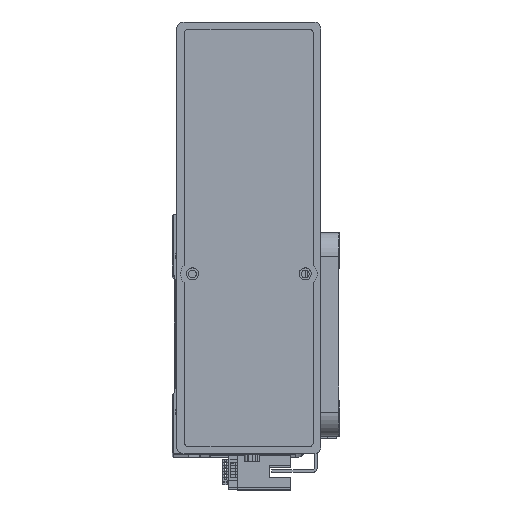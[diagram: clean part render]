
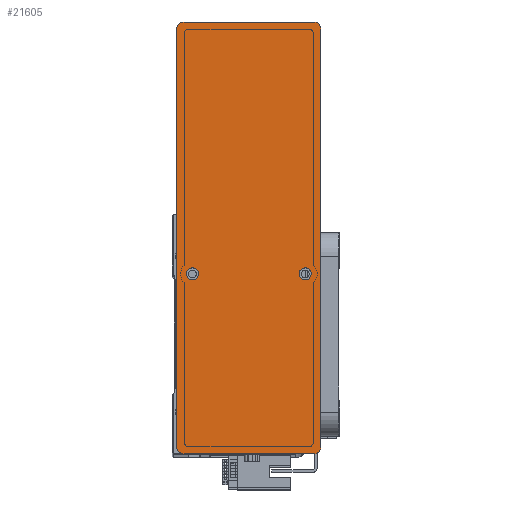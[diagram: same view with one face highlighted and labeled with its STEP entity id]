
A CAD part, top view. The second image highlights one B-rep face of the part: STEP entity #21605.
In plain terms, the highlighted planar face has unit normal (0, 0, 1) as drawn and (0, 0, -1) by its records, which use the part's own axes.
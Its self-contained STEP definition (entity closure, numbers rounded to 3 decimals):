
#45 = CARTESIAN_POINT ( 'NONE',  ( 90., 27., 0. ) ) ;
#476 = AXIS2_PLACEMENT_3D ( 'NONE', #51504, #24236, #56082 ) ;
#2050 = PLANE ( 'NONE',  #59038 ) ;
#2714 = AXIS2_PLACEMENT_3D ( 'NONE', #37940, #10603, #42529 ) ;
#2811 = VERTEX_POINT ( 'NONE', #45 ) ;
#3527 = CARTESIAN_POINT ( 'NONE',  ( -87., -30., 0. ) ) ;
#3830 = LINE ( 'NONE', #58551, #26709 ) ;
#5002 = VERTEX_POINT ( 'NONE', #25527 ) ;
#5585 = CIRCLE ( 'NONE', #46251, 3. ) ;
#5653 = CARTESIAN_POINT ( 'NONE',  ( 87., -30., 0. ) ) ;
#6445 = DIRECTION ( 'NONE',  ( 0., 0., 1. ) ) ;
#6645 = CARTESIAN_POINT ( 'NONE',  ( 0., 0., 0. ) ) ;
#6759 = DIRECTION ( 'NONE',  ( 0., 0., -1. ) ) ;
#6872 = EDGE_CURVE ( 'NONE', #49902, #44324, #19826, .T. ) ;
#7207 = CARTESIAN_POINT ( 'NONE',  ( -17.5, -23.5, 0. ) ) ;
#8177 = VERTEX_POINT ( 'NONE', #5653 ) ;
#8407 = AXIS2_PLACEMENT_3D ( 'NONE', #34031, #6759, #38652 ) ;
#10603 = DIRECTION ( 'NONE',  ( 0., 0., -1. ) ) ;
#13989 = ORIENTED_EDGE ( 'NONE', *, *, #29305, .F. ) ;
#14595 = ORIENTED_EDGE ( 'NONE', *, *, #17684, .F. ) ;
#14889 = CIRCLE ( 'NONE', #8407, 2.5 ) ;
#15467 = LINE ( 'NONE', #55861, #16939 ) ;
#15910 = ORIENTED_EDGE ( 'NONE', *, *, #27673, .F. ) ;
#15978 = CARTESIAN_POINT ( 'NONE',  ( -90., -27., 0. ) ) ;
#16566 = DIRECTION ( 'NONE',  ( 0., 0., -1. ) ) ;
#16939 = VECTOR ( 'NONE', #24019, 1000. ) ;
#17684 = EDGE_CURVE ( 'NONE', #56460, #2811, #44172, .T. ) ;
#17745 = DIRECTION ( 'NONE',  ( -1., 0., 0. ) ) ;
#18778 = VERTEX_POINT ( 'NONE', #21139 ) ;
#18843 = FACE_OUTER_BOUND ( 'NONE', #50554, .T. ) ;
#19095 = CARTESIAN_POINT ( 'NONE',  ( -12.5, -23.5, 0. ) ) ;
#19826 = CIRCLE ( 'NONE', #52735, 2.5 ) ;
#19828 = CARTESIAN_POINT ( 'NONE',  ( -15., 23.5, 0. ) ) ;
#19919 = CARTESIAN_POINT ( 'NONE',  ( -17.5, 23.5, 0. ) ) ;
#20215 = EDGE_CURVE ( 'NONE', #42067, #28683, #27769, .T. ) ;
#20319 = ORIENTED_EDGE ( 'NONE', *, *, #42455, .F. ) ;
#20443 = ORIENTED_EDGE ( 'NONE', *, *, #20215, .T. ) ;
#21139 = CARTESIAN_POINT ( 'NONE',  ( -90., 27., 0. ) ) ;
#21356 = VECTOR ( 'NONE', #31263, 1000. ) ;
#21605 = ADVANCED_FACE ( 'NONE', ( #53752, #29542, #18843 ), #2050, .F. ) ;
#22261 = DIRECTION ( 'NONE',  ( 0., 0., -1. ) ) ;
#22577 = DIRECTION ( 'NONE',  ( 0., 0., -1. ) ) ;
#23390 = EDGE_CURVE ( 'NONE', #56460, #8177, #5585, .T. ) ;
#24019 = DIRECTION ( 'NONE',  ( 0., -1., 0. ) ) ;
#24236 = DIRECTION ( 'NONE',  ( 0., 0., -1. ) ) ;
#24412 = DIRECTION ( 'NONE',  ( -1., 0., 0. ) ) ;
#24655 = CARTESIAN_POINT ( 'NONE',  ( -15., -23.5, 0. ) ) ;
#24756 = EDGE_CURVE ( 'NONE', #49300, #2811, #26745, .T. ) ;
#25061 = ORIENTED_EDGE ( 'NONE', *, *, #23390, .T. ) ;
#25503 = EDGE_LOOP ( 'NONE', ( #28135, #13989 ) ) ;
#25527 = CARTESIAN_POINT ( 'NONE',  ( -87., 30., 0. ) ) ;
#25681 = VECTOR ( 'NONE', #44822, 1000. ) ;
#25834 = ORIENTED_EDGE ( 'NONE', *, *, #30102, .F. ) ;
#26709 = VECTOR ( 'NONE', #17745, 1000. ) ;
#26745 = CIRCLE ( 'NONE', #476, 3. ) ;
#27673 = EDGE_CURVE ( 'NONE', #49300, #5002, #3830, .T. ) ;
#27769 = CIRCLE ( 'NONE', #34500, 3. ) ;
#28135 = ORIENTED_EDGE ( 'NONE', *, *, #31326, .F. ) ;
#28325 = EDGE_CURVE ( 'NONE', #18778, #5002, #55764, .T. ) ;
#28683 = VERTEX_POINT ( 'NONE', #15978 ) ;
#29255 = DIRECTION ( 'NONE',  ( -1., 0., 0. ) ) ;
#29305 = EDGE_CURVE ( 'NONE', #46623, #32029, #14889, .T. ) ;
#29542 = FACE_BOUND ( 'NONE', #25503, .T. ) ;
#30102 = EDGE_CURVE ( 'NONE', #18778, #28683, #15467, .T. ) ;
#30150 = EDGE_CURVE ( 'NONE', #44324, #49902, #49026, .T. ) ;
#31263 = DIRECTION ( 'NONE',  ( 0., 1., 0. ) ) ;
#31326 = EDGE_CURVE ( 'NONE', #32029, #46623, #55115, .T. ) ;
#32029 = VERTEX_POINT ( 'NONE', #7207 ) ;
#34031 = CARTESIAN_POINT ( 'NONE',  ( -15., -23.5, 0. ) ) ;
#34500 = AXIS2_PLACEMENT_3D ( 'NONE', #49886, #22577, #54430 ) ;
#34950 = EDGE_LOOP ( 'NONE', ( #43820, #50162 ) ) ;
#35264 = ORIENTED_EDGE ( 'NONE', *, *, #28325, .T. ) ;
#36338 = LINE ( 'NONE', #58122, #25681 ) ;
#36598 = AXIS2_PLACEMENT_3D ( 'NONE', #49548, #22261, #54120 ) ;
#37940 = CARTESIAN_POINT ( 'NONE',  ( -15., 23.5, 0. ) ) ;
#38652 = DIRECTION ( 'NONE',  ( -1., 0., 0. ) ) ;
#41454 = AXIS2_PLACEMENT_3D ( 'NONE', #24655, #56490, #29255 ) ;
#42067 = VERTEX_POINT ( 'NONE', #3527 ) ;
#42455 = EDGE_CURVE ( 'NONE', #42067, #8177, #36338, .T. ) ;
#42529 = DIRECTION ( 'NONE',  ( -1., 0., 0. ) ) ;
#43127 = DIRECTION ( 'NONE',  ( 1., 0., 0. ) ) ;
#43820 = ORIENTED_EDGE ( 'NONE', *, *, #6872, .F. ) ;
#43898 = CARTESIAN_POINT ( 'NONE',  ( 87., -27., 0. ) ) ;
#44172 = LINE ( 'NONE', #58502, #21356 ) ;
#44324 = VERTEX_POINT ( 'NONE', #54528 ) ;
#44516 = ORIENTED_EDGE ( 'NONE', *, *, #24756, .T. ) ;
#44822 = DIRECTION ( 'NONE',  ( 1., 0., 0. ) ) ;
#46251 = AXIS2_PLACEMENT_3D ( 'NONE', #43898, #16566, #48477 ) ;
#46623 = VERTEX_POINT ( 'NONE', #19095 ) ;
#48477 = DIRECTION ( 'NONE',  ( 1., 0., 0. ) ) ;
#49026 = CIRCLE ( 'NONE', #2714, 2.5 ) ;
#49300 = VERTEX_POINT ( 'NONE', #51454 ) ;
#49548 = CARTESIAN_POINT ( 'NONE',  ( -87., 27., 0. ) ) ;
#49886 = CARTESIAN_POINT ( 'NONE',  ( -87., -27., 0. ) ) ;
#49902 = VERTEX_POINT ( 'NONE', #19919 ) ;
#50162 = ORIENTED_EDGE ( 'NONE', *, *, #30150, .F. ) ;
#50554 = EDGE_LOOP ( 'NONE', ( #14595, #25061, #20319, #20443, #25834, #35264, #15910, #44516 ) ) ;
#51454 = CARTESIAN_POINT ( 'NONE',  ( 87., 30., 0. ) ) ;
#51504 = CARTESIAN_POINT ( 'NONE',  ( 87., 27., 0. ) ) ;
#51691 = DIRECTION ( 'NONE',  ( 0., 0., -1. ) ) ;
#52735 = AXIS2_PLACEMENT_3D ( 'NONE', #19828, #51691, #24412 ) ;
#53752 = FACE_BOUND ( 'NONE', #34950, .T. ) ;
#54120 = DIRECTION ( 'NONE',  ( 1., 0., 0. ) ) ;
#54430 = DIRECTION ( 'NONE',  ( 1., 0., 0. ) ) ;
#54528 = CARTESIAN_POINT ( 'NONE',  ( -12.5, 23.5, 0. ) ) ;
#55115 = CIRCLE ( 'NONE', #41454, 2.5 ) ;
#55564 = CARTESIAN_POINT ( 'NONE',  ( 90., -27., 0. ) ) ;
#55764 = CIRCLE ( 'NONE', #36598, 3. ) ;
#55861 = CARTESIAN_POINT ( 'NONE',  ( -90., -30., 0. ) ) ;
#56082 = DIRECTION ( 'NONE',  ( 1., 0., 0. ) ) ;
#56460 = VERTEX_POINT ( 'NONE', #55564 ) ;
#56490 = DIRECTION ( 'NONE',  ( 0., 0., -1. ) ) ;
#58122 = CARTESIAN_POINT ( 'NONE',  ( 90., -30., 0. ) ) ;
#58502 = CARTESIAN_POINT ( 'NONE',  ( 90., -30., 0. ) ) ;
#58551 = CARTESIAN_POINT ( 'NONE',  ( 90., 30., 0. ) ) ;
#59038 = AXIS2_PLACEMENT_3D ( 'NONE', #6645, #6445, #43127 ) ;
